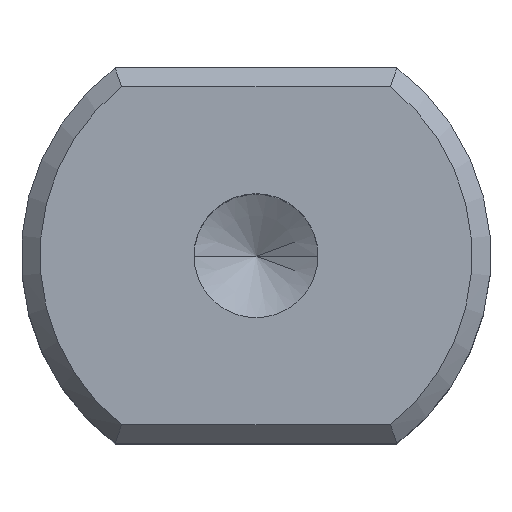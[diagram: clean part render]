
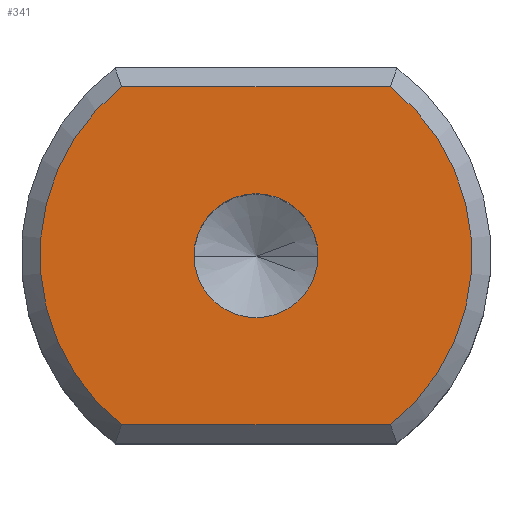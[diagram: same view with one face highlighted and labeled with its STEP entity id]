
A CAD part, top view. The second image highlights one B-rep face of the part: STEP entity #341.
In plain terms, the highlighted planar face has unit normal (0, 0, 1).
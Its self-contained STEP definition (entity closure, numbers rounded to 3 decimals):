
#2 = DIRECTION ( 'NONE',  ( 0., 1., 0. ) ) ;
#3 = EDGE_LOOP ( 'NONE', ( #456, #393 ) ) ;
#6 = CARTESIAN_POINT ( 'NONE',  ( 0., 0., 0. ) ) ;
#10 = CIRCLE ( 'NONE', #623, 1.65 ) ;
#27 = EDGE_CURVE ( 'NONE', #739, #338, #703, .T. ) ;
#32 = CARTESIAN_POINT ( 'NONE',  ( 0., 4.5, 0. ) ) ;
#36 = CIRCLE ( 'NONE', #485, 1.65 ) ;
#74 = DIRECTION ( 'NONE',  ( 1., 0., 0. ) ) ;
#81 = DIRECTION ( 'NONE',  ( -1., 0., 0. ) ) ;
#96 = CARTESIAN_POINT ( 'NONE',  ( -1.65, 0., 0. ) ) ;
#115 = AXIS2_PLACEMENT_3D ( 'NONE', #6, #775, #613 ) ;
#120 = EDGE_CURVE ( 'NONE', #359, #214, #574, .T. ) ;
#125 = DIRECTION ( 'NONE',  ( 0., 0., 1. ) ) ;
#138 = CARTESIAN_POINT ( 'NONE',  ( -3.579, 4.5, 0. ) ) ;
#178 = ORIENTED_EDGE ( 'NONE', *, *, #120, .T. ) ;
#180 = CARTESIAN_POINT ( 'NONE',  ( -3.579, -4.5, 0. ) ) ;
#181 = PLANE ( 'NONE',  #115 ) ;
#190 = EDGE_CURVE ( 'NONE', #214, #739, #610, .T. ) ;
#214 = VERTEX_POINT ( 'NONE', #180 ) ;
#221 = CARTESIAN_POINT ( 'NONE',  ( 1.65, 0., 0. ) ) ;
#258 = CARTESIAN_POINT ( 'NONE',  ( 0., 0., 0. ) ) ;
#286 = VECTOR ( 'NONE', #81, 1000. ) ;
#306 = ORIENTED_EDGE ( 'NONE', *, *, #457, .T. ) ;
#338 = VERTEX_POINT ( 'NONE', #659 ) ;
#341 = ADVANCED_FACE ( 'NONE', ( #503, #356 ), #181, .F. ) ;
#356 = FACE_OUTER_BOUND ( 'NONE', #707, .T. ) ;
#357 = AXIS2_PLACEMENT_3D ( 'NONE', #604, #477, #661 ) ;
#359 = VERTEX_POINT ( 'NONE', #138 ) ;
#385 = CARTESIAN_POINT ( 'NONE',  ( 3.579, -4.5, 0. ) ) ;
#393 = ORIENTED_EDGE ( 'NONE', *, *, #579, .F. ) ;
#400 = ORIENTED_EDGE ( 'NONE', *, *, #190, .T. ) ;
#456 = ORIENTED_EDGE ( 'NONE', *, *, #696, .F. ) ;
#457 = EDGE_CURVE ( 'NONE', #338, #359, #632, .T. ) ;
#471 = VECTOR ( 'NONE', #554, 1000. ) ;
#477 = DIRECTION ( 'NONE',  ( 0., 0., 1. ) ) ;
#483 = DIRECTION ( 'NONE',  ( 1., 0., 0. ) ) ;
#485 = AXIS2_PLACEMENT_3D ( 'NONE', #258, #493, #74 ) ;
#492 = CARTESIAN_POINT ( 'NONE',  ( 0., 0., 0. ) ) ;
#493 = DIRECTION ( 'NONE',  ( 0., 0., 1. ) ) ;
#503 = FACE_BOUND ( 'NONE', #3, .T. ) ;
#504 = ORIENTED_EDGE ( 'NONE', *, *, #27, .T. ) ;
#510 = VERTEX_POINT ( 'NONE', #96 ) ;
#554 = DIRECTION ( 'NONE',  ( 1., 0., 0. ) ) ;
#563 = AXIS2_PLACEMENT_3D ( 'NONE', #492, #727, #2 ) ;
#574 = CIRCLE ( 'NONE', #563, 5.75 ) ;
#579 = EDGE_CURVE ( 'NONE', #510, #784, #10, .T. ) ;
#604 = CARTESIAN_POINT ( 'NONE',  ( 0., 0., 0. ) ) ;
#610 = LINE ( 'NONE', #725, #471 ) ;
#613 = DIRECTION ( 'NONE',  ( 0., 1., 0. ) ) ;
#623 = AXIS2_PLACEMENT_3D ( 'NONE', #728, #125, #483 ) ;
#632 = LINE ( 'NONE', #32, #286 ) ;
#659 = CARTESIAN_POINT ( 'NONE',  ( 3.579, 4.5, 0. ) ) ;
#661 = DIRECTION ( 'NONE',  ( 0., 1., 0. ) ) ;
#696 = EDGE_CURVE ( 'NONE', #784, #510, #36, .T. ) ;
#703 = CIRCLE ( 'NONE', #357, 5.75 ) ;
#707 = EDGE_LOOP ( 'NONE', ( #178, #400, #504, #306 ) ) ;
#725 = CARTESIAN_POINT ( 'NONE',  ( 0., -4.5, 0. ) ) ;
#727 = DIRECTION ( 'NONE',  ( 0., 0., 1. ) ) ;
#728 = CARTESIAN_POINT ( 'NONE',  ( 0., 0., 0. ) ) ;
#739 = VERTEX_POINT ( 'NONE', #385 ) ;
#775 = DIRECTION ( 'NONE',  ( 0., 0., -1. ) ) ;
#784 = VERTEX_POINT ( 'NONE', #221 ) ;
